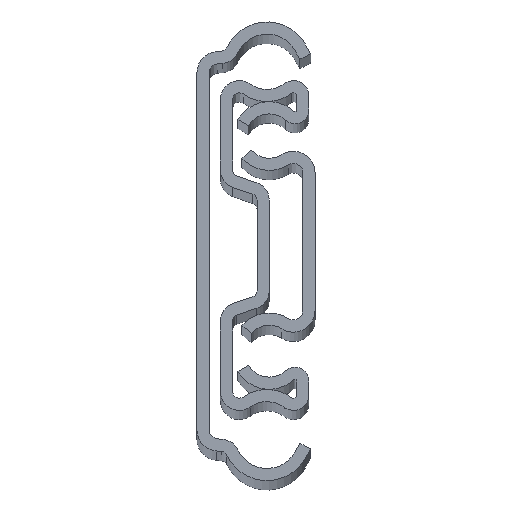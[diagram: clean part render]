
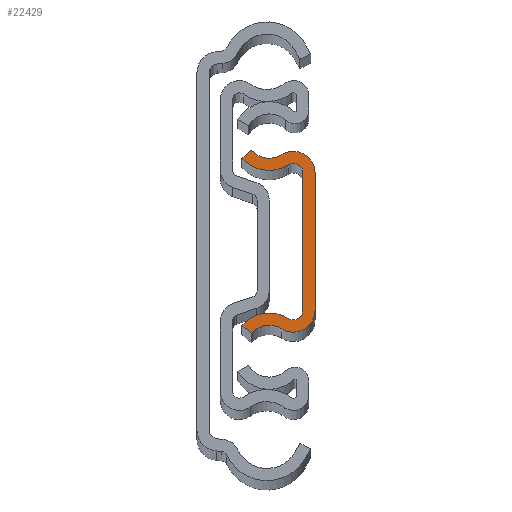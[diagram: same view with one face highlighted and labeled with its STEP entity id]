
A CAD part, top view. The second image highlights one B-rep face of the part: STEP entity #22429.
In plain terms, the highlighted planar face has unit normal (0, 0, 1).
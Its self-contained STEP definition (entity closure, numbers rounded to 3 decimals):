
#97 = EDGE_CURVE ( 'NONE', #9639, #15207, #196, .T. ) ;
#110 = AXIS2_PLACEMENT_3D ( 'NONE', #13796, #9258, #13511 ) ;
#196 = CIRCLE ( 'NONE', #23496, 3.552 ) ;
#205 = CARTESIAN_POINT ( 'NONE',  ( 4., 11.3, 0. ) ) ;
#296 = ORIENTED_EDGE ( 'NONE', *, *, #13267, .T. ) ;
#1044 = CARTESIAN_POINT ( 'NONE',  ( -1.532, -17.658, 0. ) ) ;
#1051 = ORIENTED_EDGE ( 'NONE', *, *, #1849, .T. ) ;
#1205 = VERTEX_POINT ( 'NONE', #205 ) ;
#1400 = EDGE_CURVE ( 'NONE', #24908, #4057, #23333, .T. ) ;
#1643 = CARTESIAN_POINT ( 'NONE',  ( 4., 0., 0. ) ) ;
#1658 = VERTEX_POINT ( 'NONE', #6342 ) ;
#1697 = CARTESIAN_POINT ( 'NONE',  ( 2.448, -11.3, 0. ) ) ;
#1849 = EDGE_CURVE ( 'NONE', #10788, #13445, #19616, .T. ) ;
#2088 = ORIENTED_EDGE ( 'NONE', *, *, #12822, .T. ) ;
#3560 = DIRECTION ( 'NONE',  ( 1., 0., 0. ) ) ;
#3949 = CARTESIAN_POINT ( 'NONE',  ( 1.625, 12.615, 0. ) ) ;
#4057 = VERTEX_POINT ( 'NONE', #17636 ) ;
#4072 = ORIENTED_EDGE ( 'NONE', *, *, #97, .T. ) ;
#4315 = FACE_OUTER_BOUND ( 'NONE', #27760, .T. ) ;
#4359 = ORIENTED_EDGE ( 'NONE', *, *, #12288, .T. ) ;
#4424 = LINE ( 'NONE', #21055, #27315 ) ;
#4572 = ORIENTED_EDGE ( 'NONE', *, *, #7431, .T. ) ;
#4971 = DIRECTION ( 'NONE',  ( 0., 0., 1. ) ) ;
#5779 = LINE ( 'NONE', #19896, #26332 ) ;
#6342 = CARTESIAN_POINT ( 'NONE',  ( 6., 11.3, 0. ) ) ;
#7331 = CARTESIAN_POINT ( 'NONE',  ( 4., -11.3, 0. ) ) ;
#7334 = CIRCLE ( 'NONE', #15694, 1.552 ) ;
#7431 = EDGE_CURVE ( 'NONE', #15207, #1658, #4424, .T. ) ;
#7825 = DIRECTION ( 'NONE',  ( 1., 0., 0. ) ) ;
#8146 = CARTESIAN_POINT ( 'NONE',  ( 6., -11.3, 0. ) ) ;
#8353 = AXIS2_PLACEMENT_3D ( 'NONE', #1697, #9893, #7825 ) ;
#8440 = VERTEX_POINT ( 'NONE', #26320 ) ;
#8538 = DIRECTION ( 'NONE',  ( 0., 1., 0. ) ) ;
#9098 = DIRECTION ( 'NONE',  ( 1., 0., 0. ) ) ;
#9258 = DIRECTION ( 'NONE',  ( 0., 0., 1. ) ) ;
#9339 = AXIS2_PLACEMENT_3D ( 'NONE', #21972, #26486, #24325 ) ;
#9394 = DIRECTION ( 'NONE',  ( 0., 0., 1. ) ) ;
#9395 = CARTESIAN_POINT ( 'NONE',  ( -4.498, -15.051, 0. ) ) ;
#9639 = VERTEX_POINT ( 'NONE', #11237 ) ;
#9640 = ORIENTED_EDGE ( 'NONE', *, *, #22523, .T. ) ;
#9893 = DIRECTION ( 'NONE',  ( 0., 0., -1. ) ) ;
#9938 = CARTESIAN_POINT ( 'NONE',  ( 0.563, 14.311, 0. ) ) ;
#10047 = CIRCLE ( 'NONE', #18574, 3.949 ) ;
#10788 = VERTEX_POINT ( 'NONE', #26591 ) ;
#11237 = CARTESIAN_POINT ( 'NONE',  ( 0.563, -14.311, 0. ) ) ;
#11360 = DIRECTION ( 'NONE',  ( -0.751, -0.66, 0. ) ) ;
#11387 = CARTESIAN_POINT ( 'NONE',  ( 2.448, -11.3, 0. ) ) ;
#11588 = DIRECTION ( 'NONE',  ( 1., 0., 0. ) ) ;
#11926 = LINE ( 'NONE', #1643, #19269 ) ;
#12288 = EDGE_CURVE ( 'NONE', #8440, #24908, #14941, .T. ) ;
#12822 = EDGE_CURVE ( 'NONE', #1205, #23449, #11926, .T. ) ;
#12964 = DIRECTION ( 'NONE',  ( 1., 0., 0. ) ) ;
#13267 = EDGE_CURVE ( 'NONE', #23449, #8440, #23986, .T. ) ;
#13304 = DIRECTION ( 'NONE',  ( 0., 0., -1. ) ) ;
#13445 = VERTEX_POINT ( 'NONE', #3949 ) ;
#13481 = EDGE_CURVE ( 'NONE', #24372, #10788, #5779, .T. ) ;
#13511 = DIRECTION ( 'NONE',  ( -1., 0., 0. ) ) ;
#13584 = CARTESIAN_POINT ( 'NONE',  ( -4.498, 15.051, 0. ) ) ;
#13796 = CARTESIAN_POINT ( 'NONE',  ( -1.532, 17.658, 0. ) ) ;
#14017 = DIRECTION ( 'NONE',  ( 0.751, -0.66, 0. ) ) ;
#14523 = CIRCLE ( 'NONE', #9339, 3.552 ) ;
#14845 = CARTESIAN_POINT ( 'NONE',  ( -1.532, -17.658, 0. ) ) ;
#14941 = CIRCLE ( 'NONE', #27249, 5.949 ) ;
#15207 = VERTEX_POINT ( 'NONE', #8146 ) ;
#15545 = AXIS2_PLACEMENT_3D ( 'NONE', #16981, #20549, #22825 ) ;
#15641 = DIRECTION ( 'NONE',  ( -1., 0., 0. ) ) ;
#15694 = AXIS2_PLACEMENT_3D ( 'NONE', #17700, #13304, #15641 ) ;
#15989 = ORIENTED_EDGE ( 'NONE', *, *, #26908, .T. ) ;
#16645 = CIRCLE ( 'NONE', #15545, 3.949 ) ;
#16945 = VERTEX_POINT ( 'NONE', #9938 ) ;
#16981 = CARTESIAN_POINT ( 'NONE',  ( -1.532, 17.658, 0. ) ) ;
#17186 = DIRECTION ( 'NONE',  ( 0., 0., 1. ) ) ;
#17329 = ORIENTED_EDGE ( 'NONE', *, *, #22670, .T. ) ;
#17636 = CARTESIAN_POINT ( 'NONE',  ( -4.498, -15.051, 0. ) ) ;
#17647 = EDGE_CURVE ( 'NONE', #16945, #24372, #16645, .T. ) ;
#17700 = CARTESIAN_POINT ( 'NONE',  ( 2.448, 11.3, 0. ) ) ;
#18574 = AXIS2_PLACEMENT_3D ( 'NONE', #1044, #24732, #3560 ) ;
#19001 = ORIENTED_EDGE ( 'NONE', *, *, #13481, .T. ) ;
#19092 = AXIS2_PLACEMENT_3D ( 'NONE', #19925, #4971, #11588 ) ;
#19269 = VECTOR ( 'NONE', #25447, 1000. ) ;
#19616 = CIRCLE ( 'NONE', #110, 5.949 ) ;
#19896 = CARTESIAN_POINT ( 'NONE',  ( -4.498, 15.051, 0. ) ) ;
#19925 = CARTESIAN_POINT ( 'NONE',  ( 2.448, -11.3, 0. ) ) ;
#20549 = DIRECTION ( 'NONE',  ( 0., 0., -1. ) ) ;
#21055 = CARTESIAN_POINT ( 'NONE',  ( 6., 0., 0. ) ) ;
#21647 = VECTOR ( 'NONE', #14017, 1000. ) ;
#21972 = CARTESIAN_POINT ( 'NONE',  ( 2.448, 11.3, 0. ) ) ;
#22429 = ADVANCED_FACE ( 'Face2', ( #4315 ), #26330, .T. ) ;
#22523 = EDGE_CURVE ( 'NONE', #4057, #9639, #10047, .T. ) ;
#22670 = EDGE_CURVE ( 'NONE', #13445, #1205, #7334, .T. ) ;
#22825 = DIRECTION ( 'NONE',  ( -1., 0., 0. ) ) ;
#23333 = LINE ( 'NONE', #9395, #21647 ) ;
#23449 = VERTEX_POINT ( 'NONE', #7331 ) ;
#23496 = AXIS2_PLACEMENT_3D ( 'NONE', #11387, #9394, #9098 ) ;
#23986 = CIRCLE ( 'NONE', #8353, 1.552 ) ;
#24325 = DIRECTION ( 'NONE',  ( -1., 0., 0. ) ) ;
#24372 = VERTEX_POINT ( 'NONE', #13584 ) ;
#24732 = DIRECTION ( 'NONE',  ( 0., 0., -1. ) ) ;
#24908 = VERTEX_POINT ( 'NONE', #26946 ) ;
#25407 = ORIENTED_EDGE ( 'NONE', *, *, #1400, .T. ) ;
#25447 = DIRECTION ( 'NONE',  ( 0., -1., 0. ) ) ;
#25592 = ORIENTED_EDGE ( 'NONE', *, *, #17647, .T. ) ;
#26320 = CARTESIAN_POINT ( 'NONE',  ( 1.625, -12.615, 0. ) ) ;
#26330 = PLANE ( 'NONE',  #19092 ) ;
#26332 = VECTOR ( 'NONE', #11360, 1000. ) ;
#26486 = DIRECTION ( 'NONE',  ( 0., 0., 1. ) ) ;
#26591 = CARTESIAN_POINT ( 'NONE',  ( -6., 13.73, 0. ) ) ;
#26908 = EDGE_CURVE ( 'NONE', #1658, #16945, #14523, .T. ) ;
#26946 = CARTESIAN_POINT ( 'NONE',  ( -6., -13.73, 0. ) ) ;
#27249 = AXIS2_PLACEMENT_3D ( 'NONE', #14845, #17186, #12964 ) ;
#27315 = VECTOR ( 'NONE', #8538, 1000. ) ;
#27760 = EDGE_LOOP ( 'NONE', ( #4072, #4572, #15989, #25592, #19001, #1051, #17329, #2088, #296, #4359, #25407, #9640 ) ) ;
